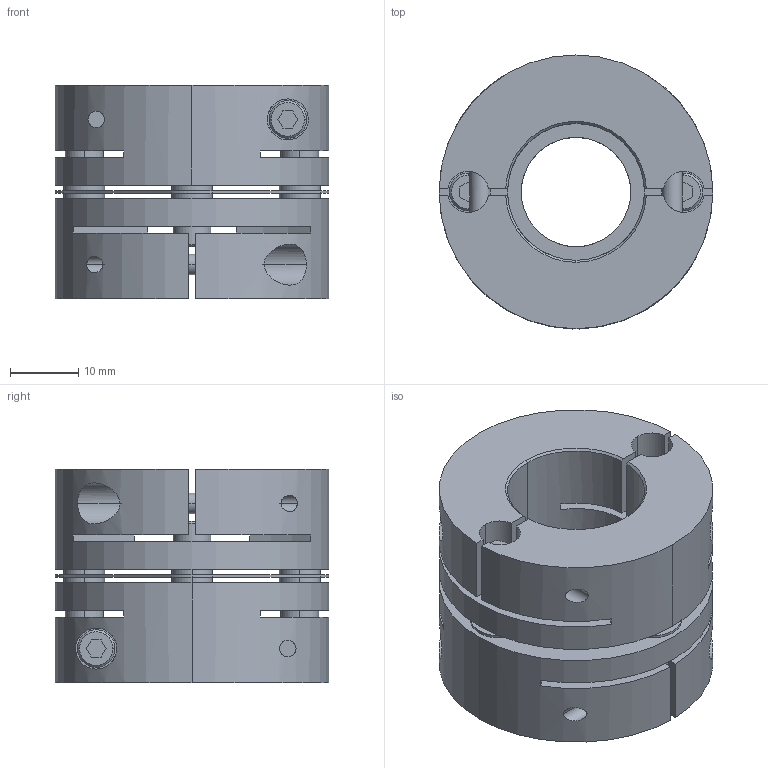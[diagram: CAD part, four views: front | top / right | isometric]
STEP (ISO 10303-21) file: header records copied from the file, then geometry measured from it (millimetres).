
FILE_DESCRIPTION((''),'2;1');
FILE_NAME('LAS-40C-16×20.stp','2011-08-11T09:09:37',(''),(''),'AutoCAD STEP 2000i','AutoCAD 2000i',', , ');
FILE_SCHEMA(('CONFIG_CONTROL_DESIGN'));
Length unit declared in the file: millimetre
Products named in the file (7): LAS-40C-15×15; 忣兜1; LA-4002-D15-1; LA-4002-D15; LA-4002-D10-1; LA-4002-D10; LAS40-ITA
Assembly tree (6 placements, depth 2):
  LAS-40C-15×15
    忣兜1
    LA-4002-D15-1
    LA-4002-D15
    LA-4002-D10-1
    LA-4002-D10
    LAS40-ITA
Bounding box: 40 x 40 x 31.2 mm (x, y, z)
Volume: 26835.5 mm3; surface area: 14787.3 mm2
Topology: 1 solids, 1 shells, 236 faces, 624 edges, 408 vertices
Faces by surface type: plane 112, cylinder 96, cone 28
Entity records: 8247 total; most frequent: CARTESIAN_POINT 2027, DIRECTION 1306, ORIENTED_EDGE 1248, EDGE_CURVE 624, AXIS2_PLACEMENT_3D 479, VERTEX_POINT 408, VECTOR 348, LINE 348
